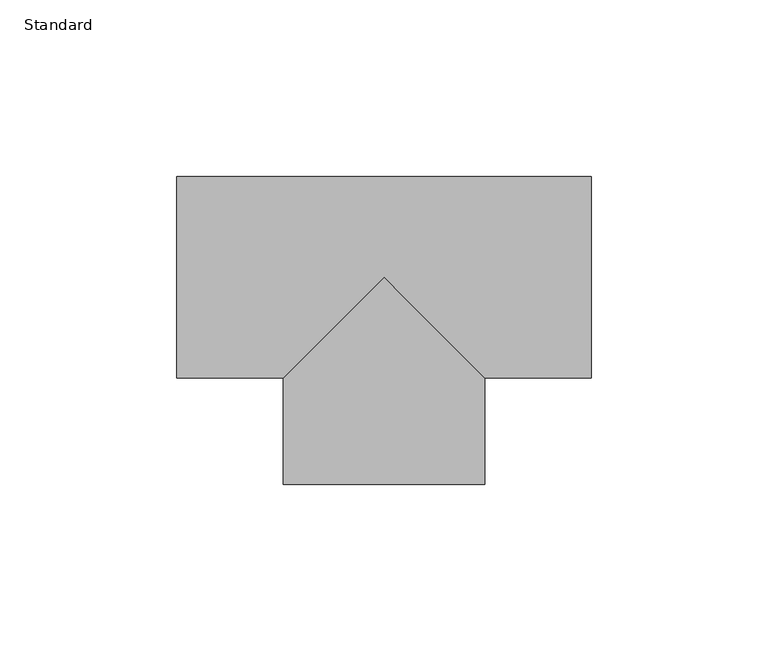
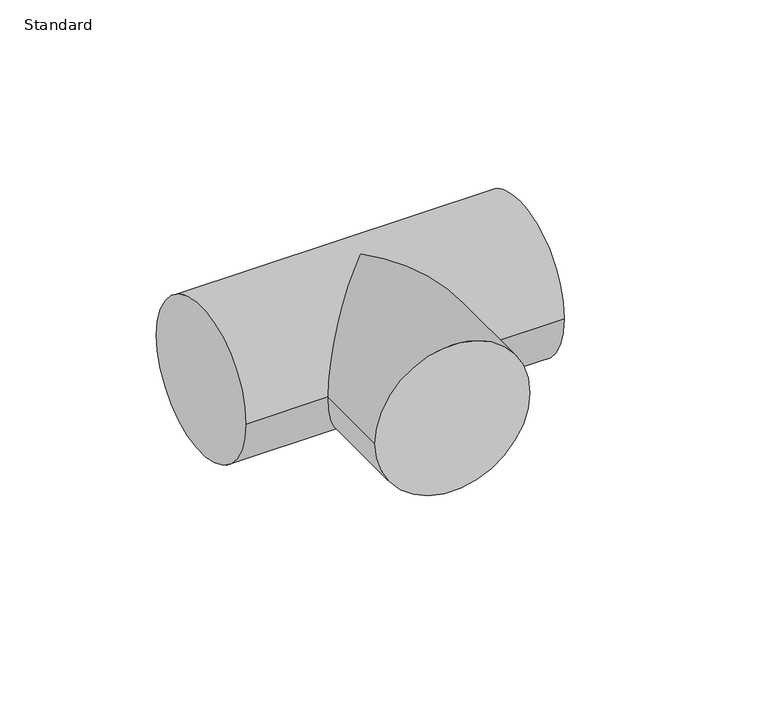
"""IFC4 building model written with IfcOpenShell, lengths in millimetres: pipe fitting geometry, M_Tee - CPVC - Sch 40 : Standard."""

import ifcopenshell
import ifcopenshell.guid

model = None  # the IFC model being written
_history = None  # IfcOwnerHistory: only IFC2X3 demands one
_inside = {}  # id of a spatial element -> (the spatial element, [elements in it])
_under = {}  # id of a project, library or spatial element -> (it, [spatial elements below it])
_declared = {}  # id of a project -> (the project, [libraries it declares])
_typed = {}  # id of a type object -> (the type object, [elements of that type])
_made_of = {}  # id of a material, layer set ... -> (it, [elements and type objects made of it])


def new_model(schema):
    """Start an empty IFC model of exactly this schema.

    Asked for "IFC4X3", IfcOpenShell would pick the latest addendum, in which some entities
    have other attributes; the version numbers below select the first issue.
    IFC2X3 requires an IfcOwnerHistory on every rooted entity: one is made here for all.
    """
    global model, _history
    if schema == "IFC4X3":
        model = ifcopenshell.file(schema_version=(4, 3, 0, 0))
    else:
        model = ifcopenshell.file(schema=schema)
    _inside.clear()
    _under.clear()
    _declared.clear()
    _typed.clear()
    _made_of.clear()
    _history = None
    if model.schema == "IFC2X3":
        org = make("IfcOrganization", Name="unknown")
        user = make(
            "IfcPersonAndOrganization",
            ThePerson=make("IfcPerson", FamilyName="unknown"),
            TheOrganization=org,
        )
        app = make(
            "IfcApplication",
            ApplicationDeveloper=org,
            Version="unknown",
            ApplicationFullName="unknown",
            ApplicationIdentifier="unknown",
        )
        _history = make(
            "IfcOwnerHistory",
            OwningUser=user,
            OwningApplication=app,
            ChangeAction="ADDED",
            CreationDate=0,
        )
    return model


def make(cls, **values):
    """One entity of the class cls with the attributes given. An attribute that is None is left unset."""
    return model.create_entity(
        cls, **{name: value for name, value in values.items() if value is not None}
    )


def rooted(cls, **values):
    """An entity with a GlobalId (a new one), such as an element, a storey or a relation."""
    return make(cls, GlobalId=ifcopenshell.guid.new(), OwnerHistory=_history, **values)


def si_unit(unit_type, name, prefix=None):
    """IfcSIUnit, for example si_unit("LENGTHUNIT", "METRE", prefix="MILLI")."""
    return make("IfcSIUnit", UnitType=unit_type, Prefix=prefix, Name=name)


def assignment(units):
    """IfcUnitAssignment: the units of a project."""
    return None if units is None else make("IfcUnitAssignment", Units=units)


def point(xyz):
    """IfcCartesianPoint."""
    return None if xyz is None else make("IfcCartesianPoint", Coordinates=xyz)


def direction(xyz):
    """IfcDirection."""
    return None if xyz is None else make("IfcDirection", DirectionRatios=xyz)


def frame(location, z_axis=None, x_axis=None):
    """IfcAxis2Placement3D, a coordinate frame: its origin and axes. An axis left out is left unset."""
    return make(
        "IfcAxis2Placement3D",
        Location=point(location),
        Axis=direction(z_axis),
        RefDirection=direction(x_axis),
    )


def origin():
    """The frame at (0, 0, 0) with its axes left unset."""
    return frame((0.0, 0.0, 0.0))


def place(relative_to, where):
    """IfcLocalPlacement: puts the frame where relative to a parent placement (None: the world)."""
    return make(
        "IfcLocalPlacement", PlacementRelTo=relative_to, RelativePlacement=where
    )


def context(
    kind, dimensions, precision=None, world=None, true_north=None, identifier=None
):
    """IfcGeometricRepresentationContext, for example the 3D "Model" context."""
    return make(
        "IfcGeometricRepresentationContext",
        ContextIdentifier=identifier,
        ContextType=kind,
        CoordinateSpaceDimension=dimensions,
        Precision=precision,
        WorldCoordinateSystem=world,
        TrueNorth=true_north,
    )


def project(units=None, contexts=None):
    """IfcProject with its units and contexts."""
    return rooted(
        "IfcProject",
        Name="project",
        RepresentationContexts=contexts,
        UnitsInContext=assignment(units),
    )


def spatial(cls, under=None, at=None, **own):
    """A site, building, storey or space (cls), placed at a placement, below another one or the project."""
    s = rooted(cls, ObjectPlacement=at, **own)
    if under is not None:
        _under.setdefault(under.id(), (under, []))[1].append(s)
    return s


def circle_curve(where, radius):
    """IfcCircle in the frame where."""
    return make("IfcCircle", Position=where, Radius=radius)


def ellipse_curve(where, semi_axis1, semi_axis2):
    """IfcEllipse in the frame where."""
    return make(
        "IfcEllipse", Position=where, SemiAxis1=semi_axis1, SemiAxis2=semi_axis2
    )


def shape(context_of_items, identifier, shape_type, items):
    """IfcShapeRepresentation: the items that make up one representation, for example the "Body"."""
    return make(
        "IfcShapeRepresentation",
        ContextOfItems=context_of_items,
        RepresentationIdentifier=identifier,
        RepresentationType=shape_type,
        Items=items,
    )


def source(mapping_origin, context_of_items, identifier, shape_type, items):
    """IfcRepresentationMap: a shape defined once, which mapped items show again and again."""
    return make(
        "IfcRepresentationMap",
        MappingOrigin=mapping_origin,
        MappedRepresentation=shape(context_of_items, identifier, shape_type, items),
    )


def transform(
    local_origin,
    x_axis=None,
    y_axis=None,
    z_axis=None,
    scale=None,
    scale2=None,
    scale3=None,
    uniform=True,
):
    """IfcCartesianTransformationOperator3D, or its non-uniform kind. x_axis, y_axis, z_axis: its Axis1, 2, 3."""
    if uniform:
        return make(
            "IfcCartesianTransformationOperator3D",
            Axis1=direction(x_axis),
            Axis2=direction(y_axis),
            LocalOrigin=point(local_origin),
            Scale=scale,
            Axis3=direction(z_axis),
        )
    return make(
        "IfcCartesianTransformationOperator3DnonUniform",
        Axis1=direction(x_axis),
        Axis2=direction(y_axis),
        LocalOrigin=point(local_origin),
        Scale=scale,
        Axis3=direction(z_axis),
        Scale2=scale2,
        Scale3=scale3,
    )


def mapped(mapping_source, mapping_target):
    """IfcMappedItem: shows the shape of a source again, moved by a transform."""
    return make(
        "IfcMappedItem", MappingSource=mapping_source, MappingTarget=mapping_target
    )


def made_of(thing, what):
    """Note that an element or type object is made of a material, layer set ...; save() writes the relation."""
    if what is not None:
        _made_of.setdefault(what.id(), (what, []))[1].append(thing)
    return thing


def element(
    cls,
    number,
    at=None,
    inside=None,
    cuts=None,
    type_object=None,
    material=None,
    context=None,
    identifier="Body",
    shape_type=None,
    held_by="IfcProductDefinitionShape",
    body=None,
    shapes=None,
    **own,
):
    """One element of the class cls, such as IfcWall. Its Tag is "e" and its number.

    at: its placement. inside: the storey or other place that contains it. cuts: it is an
    opening in that element (IfcRelVoidsElement). A single representation is given by context,
    identifier, shape_type and body (its items); several are given by shapes. held_by: the class
    of the entity that holds the representations. save() writes the other relations.
    """
    e = rooted(cls, Tag="e%d" % number, ObjectPlacement=at, **own)
    if body is not None:
        shapes = [shape(context, identifier, shape_type, body)]
    if shapes is not None:
        e.Representation = make(held_by, Representations=shapes)
    if inside is not None:
        _inside.setdefault(inside.id(), (inside, []))[1].append(e)
    if cuts is not None:
        rooted(
            "IfcRelVoidsElement", RelatingBuildingElement=cuts, RelatedOpeningElement=e
        )
    if type_object is not None:
        _typed.setdefault(type_object.id(), (type_object, []))[1].append(e)
    return made_of(e, material)


def aggregate(whole, parts):
    """IfcRelAggregates: a whole, such as a stair, and the parts it consists of."""
    return rooted("IfcRelAggregates", RelatingObject=whole, RelatedObjects=parts)


def save(model, path):
    """Write the relations noted so far, then the file.

    IfcRelAggregates (storeys below a building ...), IfcRelContainedInSpatialStructure (elements
    in a storey), IfcRelDefinesByType, IfcRelAssociatesMaterial and IfcRelDeclares: one each for
    every whole, place, type object, material and project.
    """
    for whole, parts in _under.values():
        aggregate(whole, parts)
    for where, things in _inside.values():
        rooted(
            "IfcRelContainedInSpatialStructure",
            RelatedElements=things,
            RelatingStructure=where,
        )
    for kind, things in _typed.values():
        rooted("IfcRelDefinesByType", RelatedObjects=things, RelatingType=kind)
    for what, things in _made_of.values():
        rooted("IfcRelAssociatesMaterial", RelatedObjects=things, RelatingMaterial=what)
    for by, libraries in _declared.values():
        rooted("IfcRelDeclares", RelatingContext=by, RelatedDefinitions=libraries)
    model.write(path)


def plane_surface(at):
    """IfcPlane: the flat surface through the origin of the frame at, square to its z axis."""
    return make("IfcPlane", Position=at)


def cylinder_surface(at, radius):
    """IfcCylindricalSurface: all points at the distance radius from the z axis of the frame at."""
    return make("IfcCylindricalSurface", Position=at, Radius=radius)


def advanced_brep(points, edges, surfaces, faces):
    """IfcAdvancedBrep: a solid bounded by faces that lie on surfaces and meet in shared edges.

    An edge is (start, end): straight between two places in points (the first is 0);
    or (start, end, curve); or (start, end, curve, False) where it runs against its curve.
    A face is (place in surfaces, loops), or (place, loops, False) where it looks against
    its surface's normal. A loop lists edges by number (the first is 1), with a minus sign
    where the edge is run from its end to its start. The first loop is the outer one.
    """
    corners = [point(p) for p in points]
    vertices = [make("IfcVertexPoint", VertexGeometry=c) for c in corners]
    made = []
    for start, end, *more in edges:
        made.append(
            make(
                "IfcEdgeCurve",
                EdgeStart=vertices[start],
                EdgeEnd=vertices[end],
                EdgeGeometry=more[0] if more else make("IfcPolyline", Points=[corners[start], corners[end]]),
                SameSense=more[1] if len(more) > 1 else True,
            )
        )
    hull = []
    for where, loops, *sense in faces:
        bounds = []
        for j, loop in enumerate(loops):
            ring = [make("IfcOrientedEdge", EdgeElement=made[abs(k) - 1], Orientation=k > 0) for k in loop]
            bounds.append(
                make(
                    "IfcFaceOuterBound" if j == 0 else "IfcFaceBound",
                    Bound=make("IfcEdgeLoop", EdgeList=ring),
                    Orientation=True,
                )
            )
        hull.append(make("IfcAdvancedFace", Bounds=bounds, FaceSurface=surfaces[where], SameSense=sense[0] if sense else True))
    return make("IfcAdvancedBrep", Outer=make("IfcClosedShell", CfsFaces=hull))


def standard_bbae78af(model_context):
    return source(origin(), model_context, "Body", "AdvancedBrep", [
        advanced_brep(
        [(-58.7502, -28.575, 0.0), (-58.7502, 28.575, 0.0), (58.7502, -28.575, 0.0), (58.7502, 28.575, 0.0), (-28.575, -28.575, 0.0), (0.0, 0.0, 28.575), (28.575, -28.575, 0.0), (0.0, 0.0, -28.575), (-28.575, -58.7502, 0.0), (28.575, -58.7502, 0.0)],
        [
            (0, 1, circle_curve(frame((-58.7502, 0.0, 0.0), z_axis=(-1.0, 0.0, 0.0), x_axis=(0.0, 1.0, 0.0)), 28.575)),
            (1, 0, circle_curve(frame((-58.7502, 0.0, 0.0), z_axis=(-1.0, 0.0, 0.0), x_axis=(0.0, 1.0, 0.0)), 28.575)),
            (2, 3, circle_curve(frame((58.7502, 0.0, 0.0), z_axis=(1.0, 0.0, 0.0), x_axis=(0.0, 1.0, 0.0)), 28.575)),
            (3, 2, circle_curve(frame((58.7502, 0.0, 0.0), z_axis=(1.0, 0.0, 0.0), x_axis=(0.0, 1.0, 0.0)), 28.575)),
            (0, 4),
            (4, 5, ellipse_curve(frame((0.0, 0.0, 0.0), z_axis=(-0.7071067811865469, 0.7071067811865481, 0.0), x_axis=(-0.707106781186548, -0.7071067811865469, 0.0)), 40.4111525, 28.575)),
            (5, 6, ellipse_curve(frame((0.0, 0.0, 0.0), z_axis=(0.707106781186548, 0.7071067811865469, 0.0), x_axis=(-0.707106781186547, 0.707106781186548, 0.0)), 40.4111525, 28.575)),
            (6, 2),
            (3, 1),
            (6, 7, ellipse_curve(frame((0.0, 0.0, 0.0), z_axis=(0.707106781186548, 0.7071067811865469, 0.0), x_axis=(-0.707106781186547, 0.707106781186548, 0.0)), 40.4111525, 28.575)),
            (7, 4, ellipse_curve(frame((0.0, 0.0, 0.0), z_axis=(-0.7071067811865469, 0.7071067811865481, 0.0), x_axis=(-0.707106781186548, -0.7071067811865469, 0.0)), 40.4111525, 28.575)),
            (8, 9, circle_curve(frame((0.0, -58.7502, 0.0), z_axis=(0.0, -1.0, 0.0), x_axis=(1.0, 0.0, 0.0)), 28.575)),
            (9, 8, circle_curve(frame((0.0, -58.7502, 0.0), z_axis=(0.0, -1.0, 0.0), x_axis=(1.0, 0.0, 0.0)), 28.575)),
            (9, 6),
            (4, 8),
        ],
        [
            plane_surface(frame((-58.7502, 0.0, 0.0), z_axis=(-1.0, 0.0, 0.0), x_axis=(0.0, 0.0, 1.0))),
            plane_surface(frame((58.7502, 0.0, 0.0), z_axis=(1.0, 0.0, 0.0), x_axis=(0.0, 0.0, 1.0))),
            cylinder_surface(frame((-58.7502, 0.0, 0.0), z_axis=(-1.0, 0.0, 0.0), x_axis=(0.0, 1.0, 0.0)), 28.575),
            plane_surface(frame((0.0, -58.7502, 0.0), z_axis=(0.0, -1.0, 0.0), x_axis=(0.0, 0.0, 1.0))),
            cylinder_surface(frame((0.0, 0.0, 0.0), z_axis=(0.0, 1.0, 0.0), x_axis=(1.0, 0.0, 0.0)), 28.575),
        ],
        [
            (0, [[1, 2]]),
            (1, [[3, 4]]),
            (2, [[-1, 5, 6, 7, 8, -4, 9]]),
            (2, [[-2, -9, -3, -8, 10, 11, -5]]),
            (3, [[12, 13]]),
            (4, [[-13, 14, -7, -6, 15]]),
            (4, [[-12, -15, -11, -10, -14]]),
        ],
    ),
    ])


if __name__ == "__main__":
    model = new_model("IFC4")
    model_context = context("Model", 3, world=origin())
    ifc_project = project(units=[si_unit("LENGTHUNIT", "METRE", prefix="MILLI")], contexts=[model_context])
    site = spatial("IfcSite", under=ifc_project)
    building = spatial("IfcBuilding", under=site)
    placement = place(None, origin())
    standard_shape = standard_bbae78af(model_context)
    element("IfcPipeFitting", 1, ObjectType="M_Tee - CPVC - Sch 40 : Standard", at=placement, inside=building, context=model_context, shape_type="MappedRepresentation", body=[
        mapped(standard_shape, transform((0.0, 0.0, 0.0), x_axis=(1.0, 0.0, 0.0), y_axis=(0.0, 1.0, 0.0), z_axis=(0.0, 0.0, 1.0))),
    ])
    save(model, "model.ifc")
